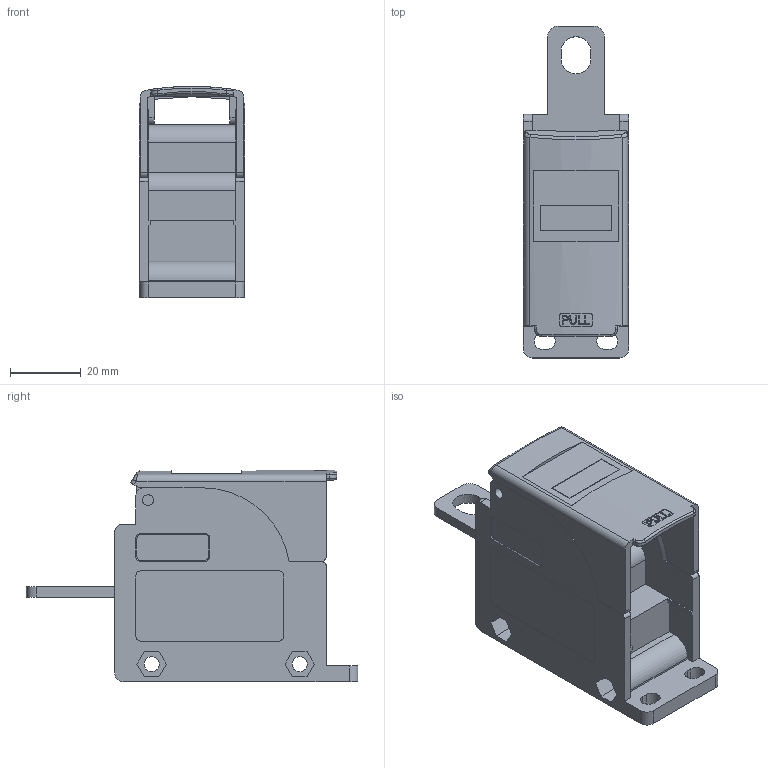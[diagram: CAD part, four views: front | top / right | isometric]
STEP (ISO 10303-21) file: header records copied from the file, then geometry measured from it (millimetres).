
FILE_DESCRIPTION(/* description */ (''),/* implementation_level */ '2;1');
FILE_NAME(/* name */ '',/* time_stamp */ '2016-09-21T13:51:13+09:00',/* author */ (''),/* organization */ (''),/* preprocessor_version */ 'ST-DEVELOPER v11',/* originating_system */ 'SIEMENS UGS NX 6.0',/* authorisation */ '');
FILE_SCHEMA (('CONFIG_CONTROL_DESIGN'));
Length unit declared in the file: millimetre
Products named in the file (1): ksleA0B3tv0y
Bounding box: 29.8 x 94.1 x 59.99 mm (x, y, z)
Volume: 67412.2 mm3; surface area: 21938.3 mm2
Topology: 1 solids, 1 shells, 242 faces, 676 edges, 447 vertices
Faces by surface type: plane 164, cylinder 56, bspline 8, cone 6, extrusion 6, torus 2
Full cylindrical faces by diameter (mm): 3.1 x2, 4.3 x2
Entity records: 8698 total; most frequent: CARTESIAN_POINT 2295, ORIENTED_EDGE 1356, DIRECTION 1240, EDGE_CURVE 678, VECTOR 488, LINE 482, VERTEX_POINT 458, AXIS2_PLACEMENT_3D 376
